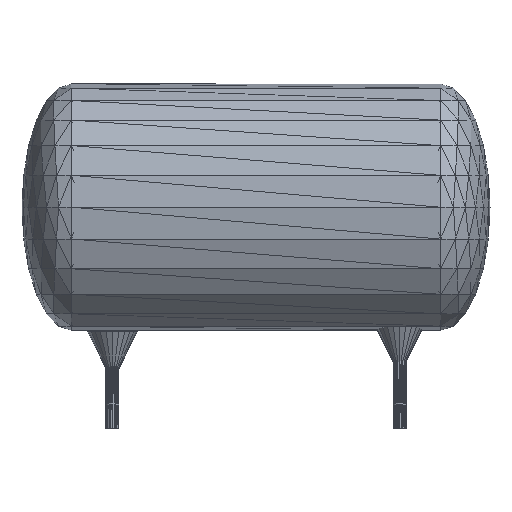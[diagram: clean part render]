
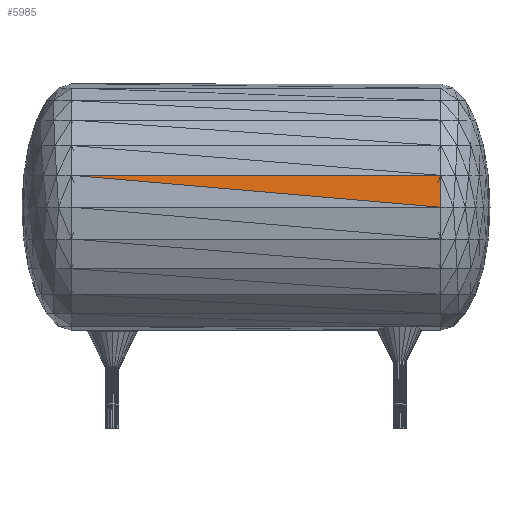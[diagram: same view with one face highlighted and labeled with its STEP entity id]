
A CAD part, front view. The second image highlights one B-rep face of the part: STEP entity #5985.
In plain terms, the highlighted planar face has unit normal (0, 0.995, -0.104).
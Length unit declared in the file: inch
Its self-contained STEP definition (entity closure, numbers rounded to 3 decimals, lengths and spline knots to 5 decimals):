
#5544=CARTESIAN_POINT('',(0.4499,-0.23193,0.51551));
#5545=VERTEX_POINT('',#5544);
#5639=CARTESIAN_POINT('',(0.44989,-0.24009,0.43786));
#5640=VERTEX_POINT('',#5639);
#5788=CARTESIAN_POINT('',(0.45,-0.24009,0.43786));
#5789=DIRECTION('',(0.,0.105,0.995));
#5790=VECTOR('',#5789,0.07808);
#5791=LINE('',#5788,#5790);
#5792=EDGE_CURVE('',#5640,#5545,#5791,.T.);
#5931=CARTESIAN_POINT('',(-0.44985,-0.23193,0.51569));
#5932=VERTEX_POINT('',#5931);
#5939=CARTESIAN_POINT('',(0.45001,-0.23193,0.51551));
#5940=DIRECTION('',(-1.,0.,0.));
#5941=VECTOR('',#5940,0.9);
#5942=LINE('',#5939,#5941);
#5943=EDGE_CURVE('',#5545,#5932,#5942,.T.);
#5966=CARTESIAN_POINT('',(0.45,-0.24009,0.43786));
#5967=DIRECTION('',(-0.996,0.009,0.086));
#5968=VECTOR('',#5967,0.90338);
#5969=LINE('',#5966,#5968);
#5970=EDGE_CURVE('',#5640,#5932,#5969,.T.);
#5975=CARTESIAN_POINT('',(-0.44874,-0.23193,0.51569));
#5976=DIRECTION('',(0.,-0.995,0.105));
#5977=DIRECTION('',(1.,0.,0.));
#5978=AXIS2_PLACEMENT_3D('',#5975,#5976,#5977);
#5979=PLANE('',#5978);
#5980=ORIENTED_EDGE('',*,*,#5943,.F.);
#5981=ORIENTED_EDGE('',*,*,#5792,.F.);
#5982=ORIENTED_EDGE('',*,*,#5970,.T.);
#5983=EDGE_LOOP('',(#5980,#5981,#5982));
#5984=FACE_BOUND('',#5983,.T.);
#5985=ADVANCED_FACE('',(#5984),#5979,.F.);
